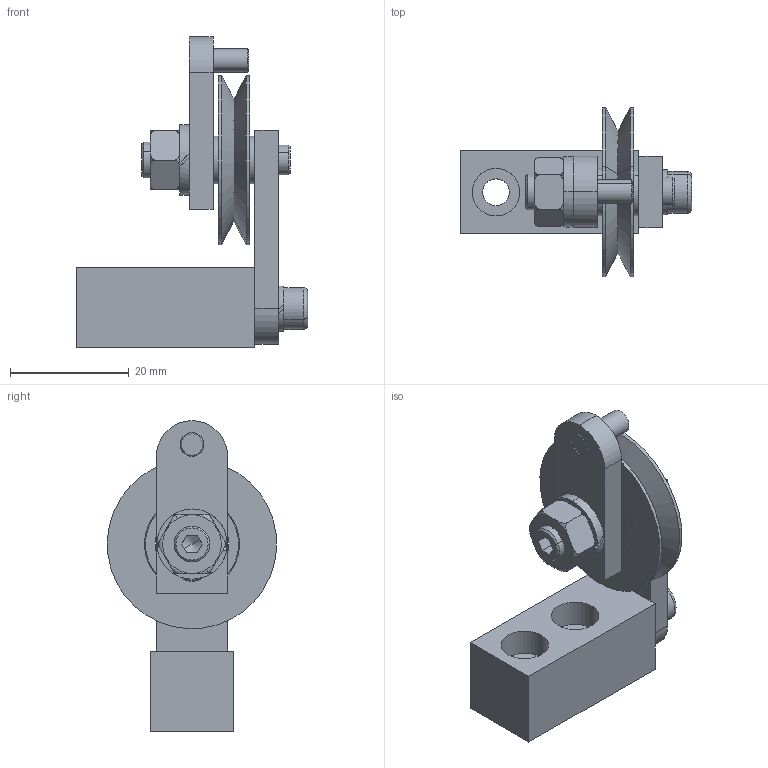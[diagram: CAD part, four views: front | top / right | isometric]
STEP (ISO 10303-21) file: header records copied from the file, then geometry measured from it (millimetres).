
FILE_DESCRIPTION((''),'2;1');
FILE_NAME('SESTAVA','2010-09-21T',(''),(''),'PRO/ENGINEER BY PARAMETRIC TECHNOLOGY CORPORATION, 2003250','PRO/ENGINEER BY PARAMETRIC TECHNOLOGY CORPORATION, 2003250','');
FILE_SCHEMA(('CONFIG_CONTROL_DESIGN'));
Length unit declared in the file: millimetre
Products named in the file (13): MONTAGEBLOCK; SROUB_IMBUSM4X8; M4; VERSTELHEBEL; KOMBISCHRAUBE; LOZISKO_625; KLADKA; UNTERLEGSCHEIBE; ABSPRUCHSICHERUNG; M6; MATICE_M6; 4X10; SESTAVA
Assembly tree (13 placements, depth 2):
  SESTAVA
    MONTAGEBLOCK
    SROUB_IMBUSM4X8
    M4
    VERSTELHEBEL
    KOMBISCHRAUBE
    LOZISKO_625
    KLADKA
    UNTERLEGSCHEIBE  x2
    ABSPRUCHSICHERUNG
    M6
    MATICE_M6
    4X10
Bounding box: 38.9 x 28.47 x 52.25 mm (x, y, z)
Volume: 11206.6 mm3; surface area: 9966 mm2
Topology: 24 solids, 24 shells, 209 faces, 475 edges, 283 vertices
Faces by surface type: cylinder 80, plane 71, cone 24, torus 18, sphere 16
Entity records: 6068 total; most frequent: CARTESIAN_POINT 1237, DIRECTION 1061, ORIENTED_EDGE 850, AXIS2_PLACEMENT_3D 445, EDGE_CURVE 425, VERTEX_POINT 275, EDGE_LOOP 236, CIRCLE 216
